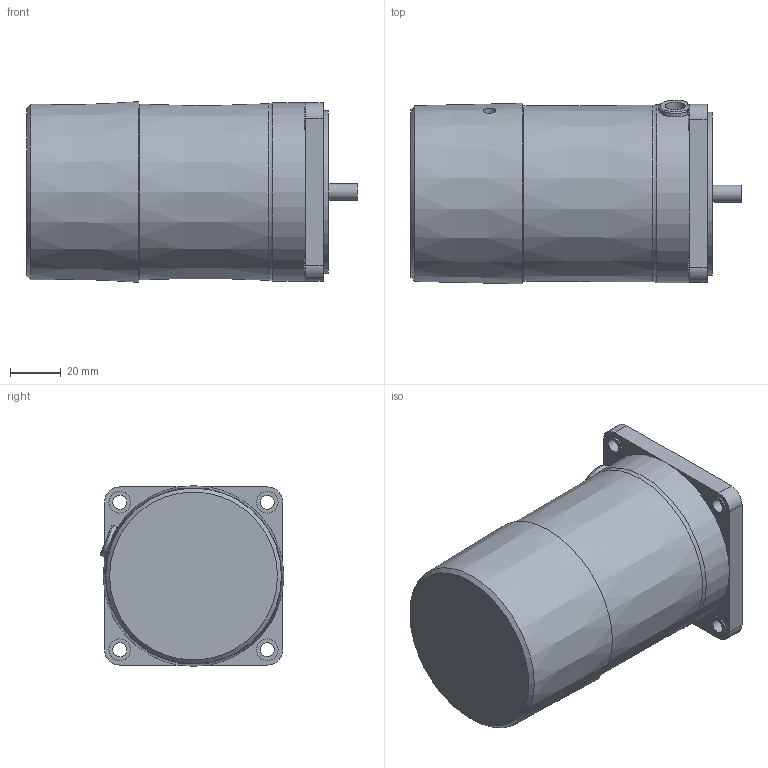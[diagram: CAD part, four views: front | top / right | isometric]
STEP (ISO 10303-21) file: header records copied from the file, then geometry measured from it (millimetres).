
FILE_DESCRIPTION((''),'2;1');
FILE_NAME('D:\김성묵\업무폴더\개발 파일\프로젝트 개발 AB등급\AC표준형 개발자료\90각 이하 표준형 개발\도면작성 자료\3D 도면\홈페이지용 3D 파일\15W MOTOR\BRACK TYPE\S7I15G-E.stp','2015-03-26T11:31:30',('smkim'),(''),'Autodesk Inventor 2012','Autodesk Inventor 2012','');
FILE_SCHEMA(('AUTOMOTIVE_DESIGN { 1 0 10303 214 1 1 1 1 }'));
Length unit declared in the file: millimetre
Products named in the file (5): S7I15G-E; S7I15GㅁCE; 6_CORD BUSH; S7_HOUSING A; 15W_전자BK COVER
Assembly tree (4 placements, depth 2):
  S7I15G-E
    S7I15GㅁCE
    6_CORD BUSH
    S7_HOUSING A
    15W_전자BK COVER
Bounding box: 129.9 x 72.22 x 70.99 mm (x, y, z)
Volume: 474163.3 mm3; surface area: 55545.9 mm2
Topology: 4 solids, 5 shells, 98 faces, 229 edges, 151 vertices
Faces by surface type: plane 58, cylinder 31, cone 7, torus 2
Full cylindrical faces by diameter (mm): 5 x1, 5.5 x4, 6.7 x1, 8 x1, 8.5 x4, 10 x1, 28 x1, 64 x1, 68 x1, 70 x1
Entity records: 2913 total; most frequent: CARTESIAN_POINT 555, DIRECTION 492, ORIENTED_EDGE 406, EDGE_CURVE 203, AXIS2_PLACEMENT_3D 193, VERTEX_POINT 147, EDGE_LOOP 144, VECTOR 106
